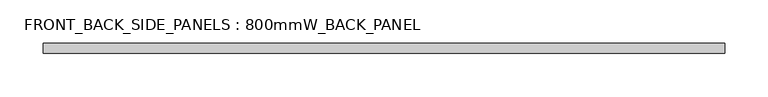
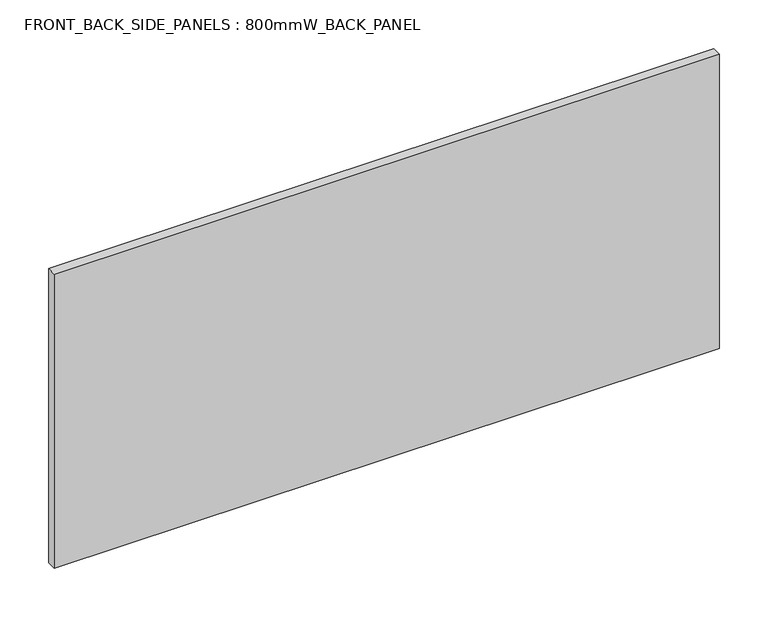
"""IFC4 building model written with IfcOpenShell, lengths in millimetres: furniture geometry, FRONT_BACK_SIDE_PANELS : 800mmW_BACK_PANEL."""

import ifcopenshell
import ifcopenshell.guid

model = None  # the IFC model being written
_history = None  # IfcOwnerHistory: only IFC2X3 demands one
_inside = {}  # id of a spatial element -> (the spatial element, [elements in it])
_under = {}  # id of a project, library or spatial element -> (it, [spatial elements below it])
_declared = {}  # id of a project -> (the project, [libraries it declares])
_typed = {}  # id of a type object -> (the type object, [elements of that type])
_made_of = {}  # id of a material, layer set ... -> (it, [elements and type objects made of it])


def new_model(schema):
    """Start an empty IFC model of exactly this schema.

    Asked for "IFC4X3", IfcOpenShell would pick the latest addendum, in which some entities
    have other attributes; the version numbers below select the first issue.
    IFC2X3 requires an IfcOwnerHistory on every rooted entity: one is made here for all.
    """
    global model, _history
    if schema == "IFC4X3":
        model = ifcopenshell.file(schema_version=(4, 3, 0, 0))
    else:
        model = ifcopenshell.file(schema=schema)
    _inside.clear()
    _under.clear()
    _declared.clear()
    _typed.clear()
    _made_of.clear()
    _history = None
    if model.schema == "IFC2X3":
        org = make("IfcOrganization", Name="unknown")
        user = make(
            "IfcPersonAndOrganization",
            ThePerson=make("IfcPerson", FamilyName="unknown"),
            TheOrganization=org,
        )
        app = make(
            "IfcApplication",
            ApplicationDeveloper=org,
            Version="unknown",
            ApplicationFullName="unknown",
            ApplicationIdentifier="unknown",
        )
        _history = make(
            "IfcOwnerHistory",
            OwningUser=user,
            OwningApplication=app,
            ChangeAction="ADDED",
            CreationDate=0,
        )
    return model


def make(cls, **values):
    """One entity of the class cls with the attributes given. An attribute that is None is left unset."""
    return model.create_entity(
        cls, **{name: value for name, value in values.items() if value is not None}
    )


def rooted(cls, **values):
    """An entity with a GlobalId (a new one), such as an element, a storey or a relation."""
    return make(cls, GlobalId=ifcopenshell.guid.new(), OwnerHistory=_history, **values)


def si_unit(unit_type, name, prefix=None):
    """IfcSIUnit, for example si_unit("LENGTHUNIT", "METRE", prefix="MILLI")."""
    return make("IfcSIUnit", UnitType=unit_type, Prefix=prefix, Name=name)


def assignment(units):
    """IfcUnitAssignment: the units of a project."""
    return None if units is None else make("IfcUnitAssignment", Units=units)


def point(xyz):
    """IfcCartesianPoint."""
    return None if xyz is None else make("IfcCartesianPoint", Coordinates=xyz)


def direction(xyz):
    """IfcDirection."""
    return None if xyz is None else make("IfcDirection", DirectionRatios=xyz)


def frame(location, z_axis=None, x_axis=None):
    """IfcAxis2Placement3D, a coordinate frame: its origin and axes. An axis left out is left unset."""
    return make(
        "IfcAxis2Placement3D",
        Location=point(location),
        Axis=direction(z_axis),
        RefDirection=direction(x_axis),
    )


def origin():
    """The frame at (0, 0, 0) with its axes left unset."""
    return frame((0.0, 0.0, 0.0))


def place(relative_to, where):
    """IfcLocalPlacement: puts the frame where relative to a parent placement (None: the world)."""
    return make(
        "IfcLocalPlacement", PlacementRelTo=relative_to, RelativePlacement=where
    )


def context(
    kind, dimensions, precision=None, world=None, true_north=None, identifier=None
):
    """IfcGeometricRepresentationContext, for example the 3D "Model" context."""
    return make(
        "IfcGeometricRepresentationContext",
        ContextIdentifier=identifier,
        ContextType=kind,
        CoordinateSpaceDimension=dimensions,
        Precision=precision,
        WorldCoordinateSystem=world,
        TrueNorth=true_north,
    )


def project(units=None, contexts=None):
    """IfcProject with its units and contexts."""
    return rooted(
        "IfcProject",
        Name="project",
        RepresentationContexts=contexts,
        UnitsInContext=assignment(units),
    )


def spatial(cls, under=None, at=None, **own):
    """A site, building, storey or space (cls), placed at a placement, below another one or the project."""
    s = rooted(cls, ObjectPlacement=at, **own)
    if under is not None:
        _under.setdefault(under.id(), (under, []))[1].append(s)
    return s


def polyline(points):
    """IfcPolyline through the points."""
    return make("IfcPolyline", Points=[point(p) for p in points])


def outline(outer, holes=None, kind="AREA"):
    """IfcArbitraryClosedProfileDef: a profile drawn as a closed curve; with holes, ...WithVoids."""
    if holes is None:
        return make("IfcArbitraryClosedProfileDef", ProfileType=kind, OuterCurve=outer)
    return make(
        "IfcArbitraryProfileDefWithVoids",
        ProfileType=kind,
        OuterCurve=outer,
        InnerCurves=holes,
    )


def extrude(swept, where, along, depth):
    """IfcExtrudedAreaSolid: the profile swept, set in the frame where, extruded along a direction by depth."""
    return make(
        "IfcExtrudedAreaSolid",
        SweptArea=swept,
        Position=where,
        ExtrudedDirection=direction(along),
        Depth=depth,
    )


def shape(context_of_items, identifier, shape_type, items):
    """IfcShapeRepresentation: the items that make up one representation, for example the "Body"."""
    return make(
        "IfcShapeRepresentation",
        ContextOfItems=context_of_items,
        RepresentationIdentifier=identifier,
        RepresentationType=shape_type,
        Items=items,
    )


def source(mapping_origin, context_of_items, identifier, shape_type, items):
    """IfcRepresentationMap: a shape defined once, which mapped items show again and again."""
    return make(
        "IfcRepresentationMap",
        MappingOrigin=mapping_origin,
        MappedRepresentation=shape(context_of_items, identifier, shape_type, items),
    )


def transform(
    local_origin,
    x_axis=None,
    y_axis=None,
    z_axis=None,
    scale=None,
    scale2=None,
    scale3=None,
    uniform=True,
):
    """IfcCartesianTransformationOperator3D, or its non-uniform kind. x_axis, y_axis, z_axis: its Axis1, 2, 3."""
    if uniform:
        return make(
            "IfcCartesianTransformationOperator3D",
            Axis1=direction(x_axis),
            Axis2=direction(y_axis),
            LocalOrigin=point(local_origin),
            Scale=scale,
            Axis3=direction(z_axis),
        )
    return make(
        "IfcCartesianTransformationOperator3DnonUniform",
        Axis1=direction(x_axis),
        Axis2=direction(y_axis),
        LocalOrigin=point(local_origin),
        Scale=scale,
        Axis3=direction(z_axis),
        Scale2=scale2,
        Scale3=scale3,
    )


def mapped(mapping_source, mapping_target):
    """IfcMappedItem: shows the shape of a source again, moved by a transform."""
    return make(
        "IfcMappedItem", MappingSource=mapping_source, MappingTarget=mapping_target
    )


def made_of(thing, what):
    """Note that an element or type object is made of a material, layer set ...; save() writes the relation."""
    if what is not None:
        _made_of.setdefault(what.id(), (what, []))[1].append(thing)
    return thing


def element(
    cls,
    number,
    at=None,
    inside=None,
    cuts=None,
    type_object=None,
    material=None,
    context=None,
    identifier="Body",
    shape_type=None,
    held_by="IfcProductDefinitionShape",
    body=None,
    shapes=None,
    **own,
):
    """One element of the class cls, such as IfcWall. Its Tag is "e" and its number.

    at: its placement. inside: the storey or other place that contains it. cuts: it is an
    opening in that element (IfcRelVoidsElement). A single representation is given by context,
    identifier, shape_type and body (its items); several are given by shapes. held_by: the class
    of the entity that holds the representations. save() writes the other relations.
    """
    e = rooted(cls, Tag="e%d" % number, ObjectPlacement=at, **own)
    if body is not None:
        shapes = [shape(context, identifier, shape_type, body)]
    if shapes is not None:
        e.Representation = make(held_by, Representations=shapes)
    if inside is not None:
        _inside.setdefault(inside.id(), (inside, []))[1].append(e)
    if cuts is not None:
        rooted(
            "IfcRelVoidsElement", RelatingBuildingElement=cuts, RelatedOpeningElement=e
        )
    if type_object is not None:
        _typed.setdefault(type_object.id(), (type_object, []))[1].append(e)
    return made_of(e, material)


def aggregate(whole, parts):
    """IfcRelAggregates: a whole, such as a stair, and the parts it consists of."""
    return rooted("IfcRelAggregates", RelatingObject=whole, RelatedObjects=parts)


def save(model, path):
    """Write the relations noted so far, then the file.

    IfcRelAggregates (storeys below a building ...), IfcRelContainedInSpatialStructure (elements
    in a storey), IfcRelDefinesByType, IfcRelAssociatesMaterial and IfcRelDeclares: one each for
    every whole, place, type object, material and project.
    """
    for whole, parts in _under.values():
        aggregate(whole, parts)
    for where, things in _inside.values():
        rooted(
            "IfcRelContainedInSpatialStructure",
            RelatedElements=things,
            RelatingStructure=where,
        )
    for kind, things in _typed.values():
        rooted("IfcRelDefinesByType", RelatedObjects=things, RelatingType=kind)
    for what, things in _made_of.values():
        rooted("IfcRelAssociatesMaterial", RelatedObjects=things, RelatingMaterial=what)
    for by, libraries in _declared.values():
        rooted("IfcRelDeclares", RelatingContext=by, RelatedDefinitions=libraries)
    model.write(path)


def front_back_side_panels_800mmw_back_panel_05991323(model_context):
    return source(origin(), model_context, "Body", "SweptSolid", [
        extrude(outline(polyline([(395.4939356, -222.7282814), (-395.4939356, -222.7282814), (-395.4939356, -210.7282814), (395.4939356, -210.7282814), (395.4939356, -222.7282814)])), frame((0.0, 0.0, 808.0), z_axis=(0.0, 0.0, 1.0), x_axis=(1.0, 0.0, 0.0)), (0.0, 0.0, 1.0), 370.0),
    ])


if __name__ == "__main__":
    model = new_model("IFC4")
    model_context = context("Model", 3, world=origin())
    ifc_project = project(units=[si_unit("LENGTHUNIT", "METRE", prefix="MILLI")], contexts=[model_context])
    site = spatial("IfcSite", under=ifc_project)
    building = spatial("IfcBuilding", under=site)
    placement = place(None, origin())
    front_back_side_panels_800mmw_back_panel_shape = front_back_side_panels_800mmw_back_panel_05991323(model_context)
    element("IfcFurniture", 1, ObjectType="FRONT_BACK_SIDE_PANELS : 800mmW_BACK_PANEL", at=placement, inside=building, context=model_context, shape_type="MappedRepresentation", body=[
        mapped(front_back_side_panels_800mmw_back_panel_shape, transform((0.0, 0.0, 0.0), x_axis=(1.0, 0.0, 0.0), y_axis=(0.0, 1.0, 0.0), z_axis=(0.0, 0.0, 1.0))),
    ])
    save(model, "model.ifc")
